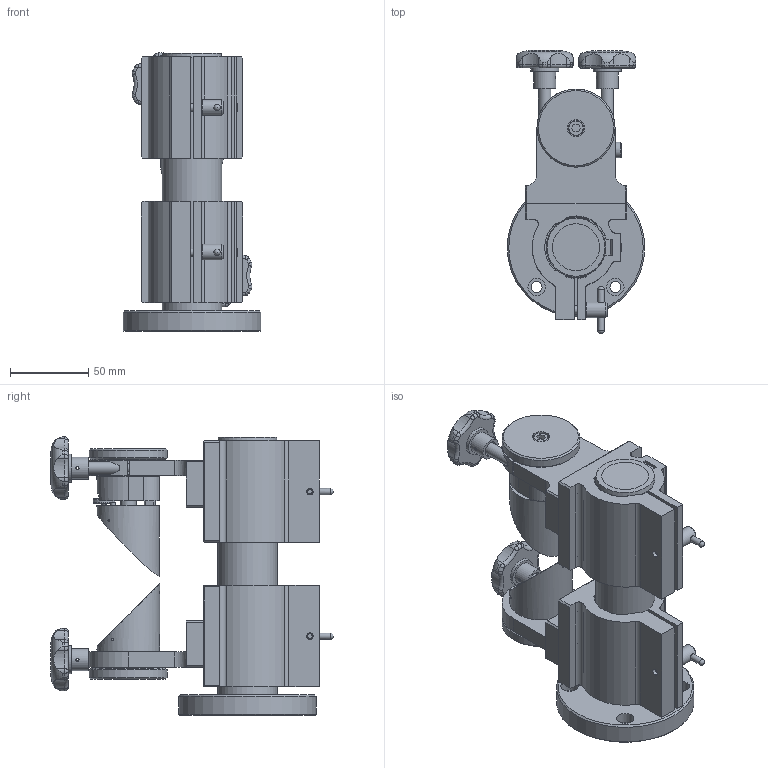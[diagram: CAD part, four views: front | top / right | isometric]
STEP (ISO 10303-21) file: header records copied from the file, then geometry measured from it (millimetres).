
FILE_DESCRIPTION(/* description */ (''),/* implementation_level */ '2;1');
FILE_NAME(/* name */ 'Y:\2_OpticalHard\02_Holders\BSRU\BSRU-177\BSRU-177.stp',/* time_stamp */ '2015-11-18T10:10:50+09:00',/* author */ ('s.hamada'),/* organization */ (''),/* preprocessor_version */ 'ST-DEVELOPER v15.6',/* originating_system */ 'Autodesk Inventor 2015',/* authorisation */ '');
FILE_SCHEMA (('AUTOMOTIVE_DESIGN { 1 0 10303 214 3 1 1 }'));
Length unit declared in the file: millimetre
Products named in the file (4): POS-71NEE-C1-S01; BSRU-177-C1-S02; BSRU-177-C1-S01; BSRU-177-C1-S03
Assembly tree (3 placements, depth 2):
  BSRU-177-C1-S03
    POS-71NEE-C1-S01
    BSRU-177-C1-S02
    BSRU-177-C1-S01
Bounding box: 88 x 180.86 x 177.98 mm (x, y, z)
Volume: 701441.7 mm3; surface area: 179802.5 mm2
Topology: 4 solids, 52 shells, 1117 faces, 2713 edges, 1749 vertices
Faces by surface type: plane 531, cylinder 399, cone 108, bspline 34, torus 29, sphere 16
Full cylindrical faces by diameter (mm): 1.5 x1, 1.567 x9, 1.6 x6, 2 x10, 2.1 x3, 2.459 x1, 3 x10, 3.242 x4, 3.5 x1, 4 x13, 4.134 x4, 4.4 x1, 4.459 x1, 4.5 x4, 4.917 x20, 5 x11, 5.1 x2, 5.2 x1, 5.459 x2, 5.5 x8, 6 x12, 7 x16, 8 x11, 10 x13, 11 x10, 14 x3, 18 x2, 20 x6, 20.5 x4, 21.5 x2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
Entity records: 33005 total; most frequent: CARTESIAN_POINT 7345, DIRECTION 5265, ORIENTED_EDGE 4488, EDGE_CURVE 2237, AXIS2_PLACEMENT_3D 2100, EDGE_LOOP 1629, VERTEX_POINT 1600, FACE_OUTER_BOUND 1116
